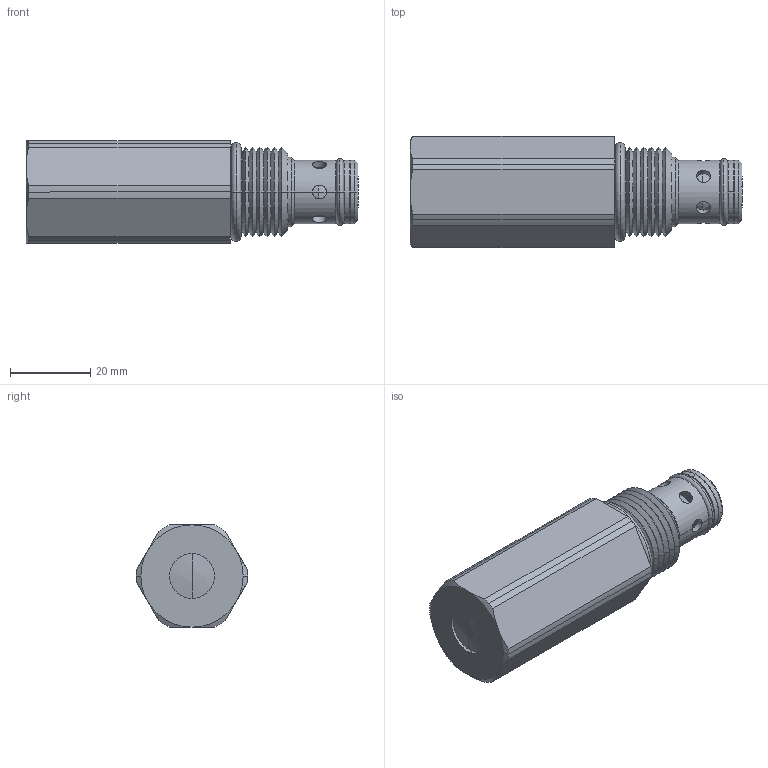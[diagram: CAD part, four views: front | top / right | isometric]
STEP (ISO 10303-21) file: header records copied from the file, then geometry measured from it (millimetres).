
FILE_DESCRIPTION((''),'2;1');
FILE_NAME('U:\Solid model CD\Solid model full\Mechanical\STEP\DERWD0T-3D Full.stp','2008-07-29T09:02:49',('Dan'),(''),'Autodesk Inventor 9','Autodesk Inventor 9','');
FILE_SCHEMA(('AUTOMOTIVE_DESIGN { 1 0 10303 214 1 1 1 1 }'));
Length unit declared in the file: inch
Products named in the file (5): DERWD0T-3D Full; DERWD0T-3D Full1; DERWD0T-3D Full2; DERWD0T-3D Full3; DERWD0T-3D Full4
Assembly tree (4 placements, depth 2):
  DERWD0T-3D Full
    DERWD0T-3D Full1
    DERWD0T-3D Full2
    DERWD0T-3D Full3
    DERWD0T-3D Full4
Bounding box: 82.5 x 27.69 x 25.4 mm (x, y, z)
Volume: 35993.9 mm3; surface area: 9372.9 mm2
Topology: 4 solids, 5 shells, 126 faces, 292 edges, 176 vertices
Faces by surface type: cylinder 50, cone 44, plane 20, torus 8, sphere 2, bspline 2
Entity records: 4090 total; most frequent: CARTESIAN_POINT 1063, DIRECTION 650, ORIENTED_EDGE 584, EDGE_CURVE 292, AXIS2_PLACEMENT_3D 273, VERTEX_POINT 176, EDGE_LOOP 146, CIRCLE 140
